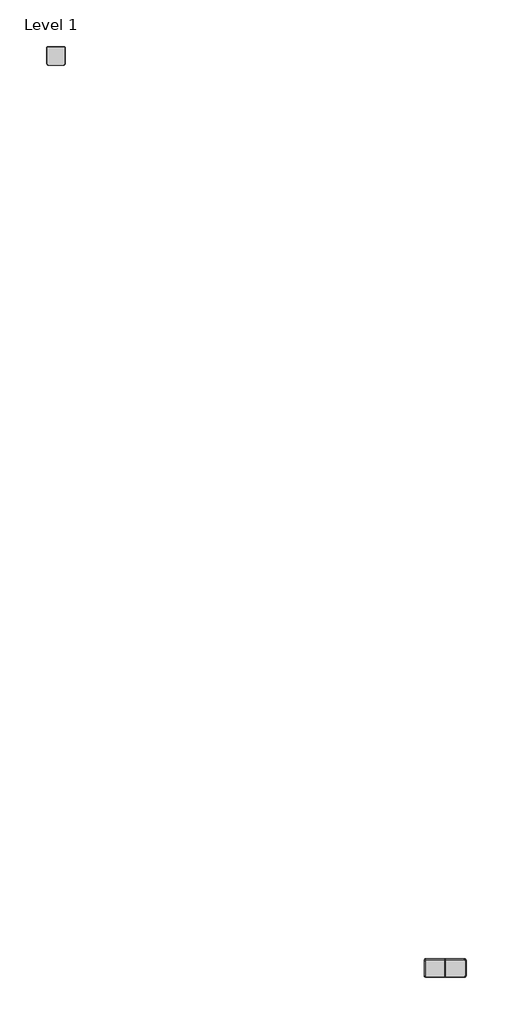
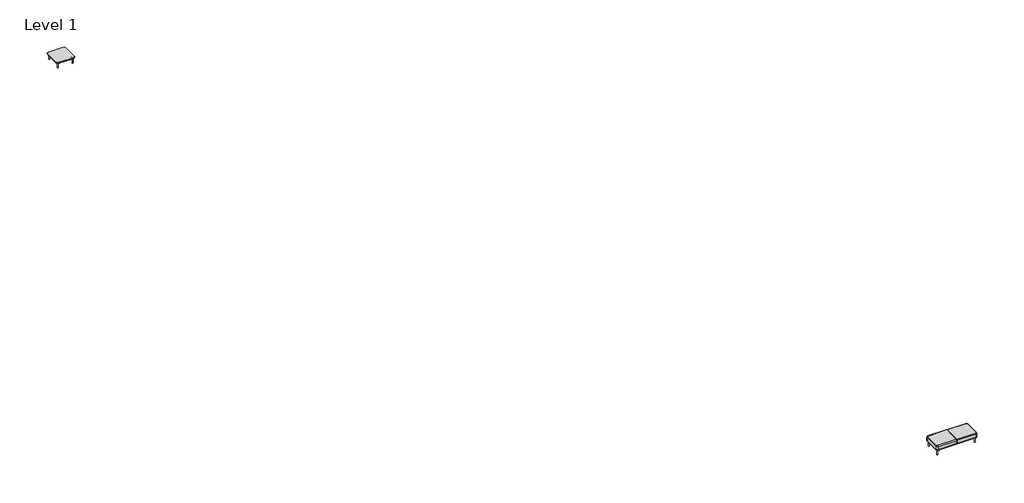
# One storey, incomplete: 2 furniture elements.
"""IFC4 building model written with IfcOpenShell, lengths in millimetres."""

from ifc_helpers import new_model, si_unit, origin, place, context, project, spatial, transform, mapped, element, save
from components import pdb32_t_8c2d0d75, pl72_bb_0ae3f5cb

model = new_model("IFC4")

# Units and contexts
model_context = context("Model", 3, world=origin())
ifc_project = project(units=[si_unit("LENGTHUNIT", "METRE", prefix="MILLI")], contexts=[model_context])

# Site, building, storey
site = spatial("IfcSite", under=ifc_project)
building = spatial("IfcBuilding", under=site)
storey = spatial("IfcBuildingStorey", under=building, Name="Level 1", Elevation=0.0)

# Furniture
placement = place(None, origin())
pdb32_t_shape = pdb32_t_8c2d0d75(model_context)
element("IfcFurniture", 1, ObjectType="StanceHC-Podium-Lounge_Seating-32_Table : PDB32-T", at=placement, inside=storey, context=model_context, shape_type="MappedRepresentation", body=[
    mapped(pdb32_t_shape, transform((-5346.5312082, 19281.6895518, 0.0), x_axis=(1.0, 0.0, 0.0), y_axis=(0.0, 1.0, 0.0), z_axis=(0.0, 0.0, 1.0))),
])
pl72_bb_shape = pl72_bb_0ae3f5cb(model_context)
element("IfcFurniture", 2, ObjectType="StanceHC-Podium-Lounge_Seating-72 : PL72-BB", at=placement, inside=storey, context=model_context, shape_type="MappedRepresentation", body=[
    mapped(pl72_bb_shape, transform((11112.6687918, -20430.8865876, 0.0), x_axis=(1.0, 0.0, 0.0), y_axis=(0.0, 1.0, 0.0), z_axis=(0.0, 0.0, 1.0))),
])

save(model, "model.ifc")
